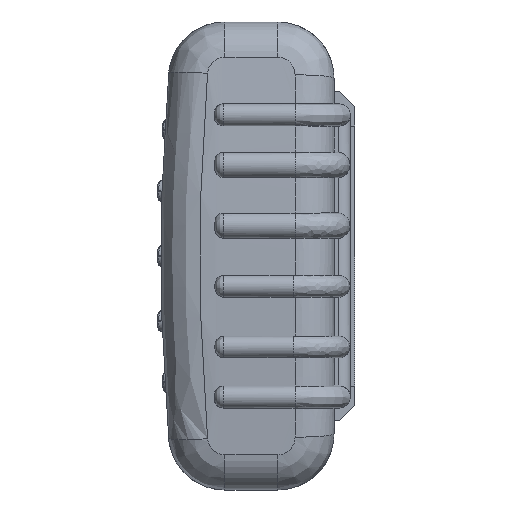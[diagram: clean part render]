
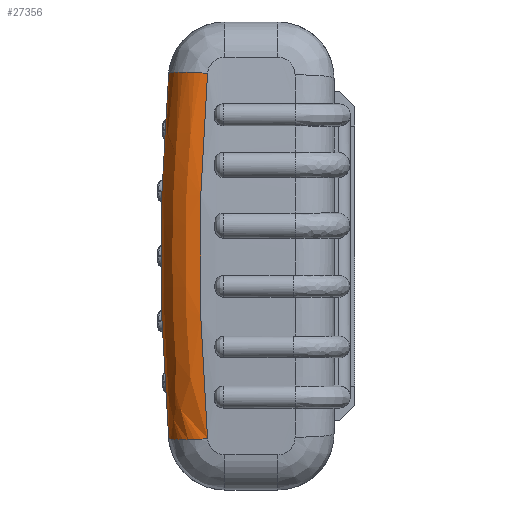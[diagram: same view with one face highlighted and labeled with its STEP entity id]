
A CAD part, left-side view. The second image highlights one B-rep face of the part: STEP entity #27356.
In plain terms, the highlighted free-form (B-spline) face has degree [3, 2] with [6, 3] control points.
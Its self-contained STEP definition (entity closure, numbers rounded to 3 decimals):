
#442 = CARTESIAN_POINT ( 'NONE',  ( 78.259, 38.156, 42.101 ) ) ;
#735 = AXIS2_PLACEMENT_3D ( 'NONE', #16819, #46957, #21143 ) ;
#1628 = CARTESIAN_POINT ( 'NONE',  ( 89.121, 30.941, -14.212 ) ) ;
#2529 = CARTESIAN_POINT ( 'NONE',  ( 78.259, 38.156, 42.101 ) ) ;
#3657 = CARTESIAN_POINT ( 'NONE',  ( 89.121, 30.941, 14.107 ) ) ;
#4590 = VERTEX_POINT ( 'NONE', #42965 ) ;
#4740 = DIRECTION ( 'NONE',  ( 0.09, 0.084, -0.992 ) ) ;
#5958 = CARTESIAN_POINT ( 'NONE',  ( 80.121, 39.941, -14.196 ) ) ;
#7007 = EDGE_LOOP ( 'NONE', ( #16372, #32213, #55482, #48441 ) ) ;
#7918 = CIRCLE ( 'NONE', #735, 9. ) ;
#8000 = CARTESIAN_POINT ( 'NONE',  ( 87.222, 29.188, 42.148 ) ) ;
#10346 = CARTESIAN_POINT ( 'NONE',  ( 88.456, 39.314, -28.734 ) ) ;
#11237 = CARTESIAN_POINT ( 'NONE',  ( 80.121, 39.941, -14.101 ) ) ;
#13026 =( BOUNDED_SURFACE ( )  B_SPLINE_SURFACE ( 3, 2, ( 
 ( #40323, #18653, #14525 ),
 ( #44635, #18833, #48980 ),
 ( #23175, #53286, #27510 ),
 ( #1628, #31800, #5958 ),
 ( #36150, #10346, #40505 ),
 ( #14708, #44820, #19022 ) ),
 .UNSPECIFIED., .F., .F., .F. ) 
 B_SPLINE_SURFACE_WITH_KNOTS ( ( 4, 2, 4 ),
 ( 3, 3 ),
 ( 0.084, 0.125, 0.166 ),
 ( 0., 1. ),
 .UNSPECIFIED. ) 
 GEOMETRIC_REPRESENTATION_ITEM ( )  RATIONAL_B_SPLINE_SURFACE ( (
 ( 1., 0.71, 1.),
 ( 1., 0.708, 1.),
 ( 1., 0.707, 1.),
 ( 1., 0.707, 1.),
 ( 1., 0.708, 1.),
 ( 1., 0.71, 1.) ) ) 
 REPRESENTATION_ITEM ( '' )  SURFACE ( )  );
#14525 = CARTESIAN_POINT ( 'NONE',  ( 78.259, 38.156, 42.101 ) ) ;
#14708 = CARTESIAN_POINT ( 'NONE',  ( 87.222, 29.188, -42.148 ) ) ;
#15596 = CARTESIAN_POINT ( 'NONE',  ( 78.259, 38.156, -42.101 ) ) ;
#16372 = ORIENTED_EDGE ( 'NONE', *, *, #32136, .F. ) ;
#16819 = CARTESIAN_POINT ( 'NONE',  ( 78.259, 29.188, -41.339 ) ) ;
#18653 = CARTESIAN_POINT ( 'NONE',  ( 87.154, 38.088, 42.898 ) ) ;
#18833 = CARTESIAN_POINT ( 'NONE',  ( 88.456, 39.314, 28.734 ) ) ;
#19022 = CARTESIAN_POINT ( 'NONE',  ( 78.259, 38.156, -42.101 ) ) ;
#20860 = CARTESIAN_POINT ( 'NONE',  ( 87.222, 29.188, -42.148 ) ) ;
#21143 = DIRECTION ( 'NONE',  ( 0.996, 0., -0.09 ) ) ;
#23175 = CARTESIAN_POINT ( 'NONE',  ( 89.121, 30.941, 14.212 ) ) ;
#23710 = AXIS2_PLACEMENT_3D ( 'NONE', #30615, #4740, #34934 ) ;
#27356 = ADVANCED_FACE ( 'NONE', ( #39967 ), #13026, .T. ) ;
#27510 = CARTESIAN_POINT ( 'NONE',  ( 80.121, 39.941, 14.196 ) ) ;
#29147 = B_SPLINE_CURVE_WITH_KNOTS ( 'NONE', 3,
 ( #2529, #45527, #37048, #11237, #41390, #15596 ),
 .UNSPECIFIED., .F., .F.,
 ( 4, 2, 4 ),
 ( 0.012, 0.054, 0.096 ),
 .UNSPECIFIED. ) ;
#29521 = CARTESIAN_POINT ( 'NONE',  ( 89.121, 30.941, -14.107 ) ) ;
#30615 = CARTESIAN_POINT ( 'NONE',  ( 78.259, 29.188, 41.339 ) ) ;
#31618 = B_SPLINE_CURVE_WITH_KNOTS ( 'NONE', 3,
 ( #20860, #37994, #29521, #3657, #33844, #8000 ),
 .UNSPECIFIED., .F., .F.,
 ( 4, 2, 4 ),
 ( 0.004, 0.046, 0.088 ),
 .UNSPECIFIED. ) ;
#31800 = CARTESIAN_POINT ( 'NONE',  ( 89.121, 39.941, -14.469 ) ) ;
#32136 = EDGE_CURVE ( 'NONE', #4590, #46993, #31618, .T. ) ;
#32213 = ORIENTED_EDGE ( 'NONE', *, *, #39912, .T. ) ;
#32348 = EDGE_CURVE ( 'NONE', #35170, #46993, #40215, .T. ) ;
#33844 = CARTESIAN_POINT ( 'NONE',  ( 88.486, 30.354, 28.156 ) ) ;
#34934 = DIRECTION ( 'NONE',  ( -0.996, 0., -0.09 ) ) ;
#35170 = VERTEX_POINT ( 'NONE', #442 ) ;
#36150 = CARTESIAN_POINT ( 'NONE',  ( 88.476, 30.346, -28.258 ) ) ;
#37048 = CARTESIAN_POINT ( 'NONE',  ( 80.121, 39.941, 14.101 ) ) ;
#37994 = CARTESIAN_POINT ( 'NONE',  ( 88.486, 30.354, -28.156 ) ) ;
#38367 = VERTEX_POINT ( 'NONE', #46382 ) ;
#39912 = EDGE_CURVE ( 'NONE', #4590, #38367, #7918, .T. ) ;
#39967 = FACE_OUTER_BOUND ( 'NONE', #7007, .T. ) ;
#40215 = CIRCLE ( 'NONE', #23710, 9. ) ;
#40323 = CARTESIAN_POINT ( 'NONE',  ( 87.222, 29.188, 42.148 ) ) ;
#40505 = CARTESIAN_POINT ( 'NONE',  ( 79.489, 39.335, -28.227 ) ) ;
#41390 = CARTESIAN_POINT ( 'NONE',  ( 79.497, 39.343, -28.135 ) ) ;
#42965 = CARTESIAN_POINT ( 'NONE',  ( 87.222, 29.188, -42.148 ) ) ;
#43093 = CARTESIAN_POINT ( 'NONE',  ( 87.222, 29.188, 42.148 ) ) ;
#44635 = CARTESIAN_POINT ( 'NONE',  ( 88.476, 30.346, 28.258 ) ) ;
#44820 = CARTESIAN_POINT ( 'NONE',  ( 87.154, 38.088, -42.898 ) ) ;
#45527 = CARTESIAN_POINT ( 'NONE',  ( 79.497, 39.343, 28.135 ) ) ;
#45929 = EDGE_CURVE ( 'NONE', #35170, #38367, #29147, .T. ) ;
#46382 = CARTESIAN_POINT ( 'NONE',  ( 78.259, 38.156, -42.101 ) ) ;
#46957 = DIRECTION ( 'NONE',  ( 0.09, 0.084, 0.992 ) ) ;
#46993 = VERTEX_POINT ( 'NONE', #43093 ) ;
#48441 = ORIENTED_EDGE ( 'NONE', *, *, #32348, .T. ) ;
#48980 = CARTESIAN_POINT ( 'NONE',  ( 79.489, 39.335, 28.227 ) ) ;
#53286 = CARTESIAN_POINT ( 'NONE',  ( 89.121, 39.941, 14.469 ) ) ;
#55482 = ORIENTED_EDGE ( 'NONE', *, *, #45929, .F. ) ;
